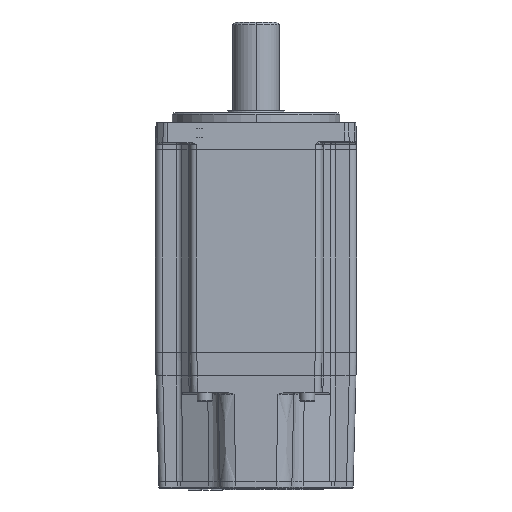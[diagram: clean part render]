
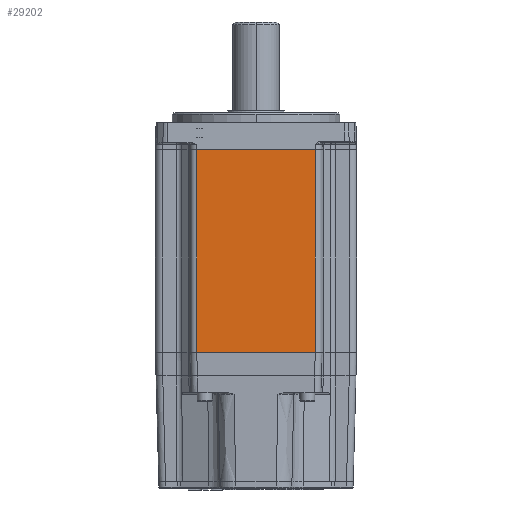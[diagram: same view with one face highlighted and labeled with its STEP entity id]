
A CAD part, front view. The second image highlights one B-rep face of the part: STEP entity #29202.
In plain terms, the highlighted planar face has unit normal (0, -1, 0).
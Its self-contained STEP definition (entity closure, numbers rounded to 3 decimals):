
#509 = ORIENTED_EDGE ( 'NONE', *, *, #7440, .F. ) ;
#1269 = CARTESIAN_POINT ( 'NONE',  ( -17.65, -30., 34.347 ) ) ;
#2292 = FACE_OUTER_BOUND ( 'NONE', #13332, .T. ) ;
#2809 = VERTEX_POINT ( 'NONE', #4286 ) ;
#4286 = CARTESIAN_POINT ( 'NONE',  ( -17.65, -30., -26.153 ) ) ;
#5213 = LINE ( 'NONE', #1269, #8649 ) ;
#5585 = CARTESIAN_POINT ( 'NONE',  ( 17.65, -30., 34.347 ) ) ;
#6359 = DIRECTION ( 'NONE',  ( 1., 0., 0. ) ) ;
#7440 = EDGE_CURVE ( 'NONE', #41697, #49699, #19990, .T. ) ;
#7848 = EDGE_CURVE ( 'NONE', #2809, #44063, #18526, .T. ) ;
#8649 = VECTOR ( 'NONE', #44534, 1000. ) ;
#11088 = PLANE ( 'NONE',  #45496 ) ;
#11124 = CARTESIAN_POINT ( 'NONE',  ( -17.65, -30., 34.347 ) ) ;
#11711 = ORIENTED_EDGE ( 'NONE', *, *, #11815, .T. ) ;
#11815 = EDGE_CURVE ( 'NONE', #41697, #2809, #5213, .T. ) ;
#13193 = VECTOR ( 'NONE', #38014, 1000. ) ;
#13332 = EDGE_LOOP ( 'NONE', ( #51958, #46945, #509, #11711 ) ) ;
#15361 = EDGE_CURVE ( 'NONE', #44063, #49699, #28588, .T. ) ;
#18526 = LINE ( 'NONE', #49070, #41502 ) ;
#18662 = DIRECTION ( 'NONE',  ( 0., 0., 1. ) ) ;
#19990 = LINE ( 'NONE', #37650, #13193 ) ;
#21145 = VECTOR ( 'NONE', #18662, 1000. ) ;
#24148 = CARTESIAN_POINT ( 'NONE',  ( 0., -30., 34.347 ) ) ;
#24330 = DIRECTION ( 'NONE',  ( 0., 0., 1. ) ) ;
#28588 = LINE ( 'NONE', #5585, #21145 ) ;
#29202 = ADVANCED_FACE ( 'NONE', ( #2292 ), #11088, .F. ) ;
#37650 = CARTESIAN_POINT ( 'NONE',  ( 0., -30., 34.347 ) ) ;
#38014 = DIRECTION ( 'NONE',  ( 1., 0., 0. ) ) ;
#38159 = CARTESIAN_POINT ( 'NONE',  ( 17.65, -30., -26.153 ) ) ;
#41502 = VECTOR ( 'NONE', #6359, 1000. ) ;
#41697 = VERTEX_POINT ( 'NONE', #11124 ) ;
#43932 = CARTESIAN_POINT ( 'NONE',  ( 17.65, -30., 34.347 ) ) ;
#44063 = VERTEX_POINT ( 'NONE', #38159 ) ;
#44534 = DIRECTION ( 'NONE',  ( 0., 0., -1. ) ) ;
#45496 = AXIS2_PLACEMENT_3D ( 'NONE', #24148, #53748, #24330 ) ;
#46945 = ORIENTED_EDGE ( 'NONE', *, *, #15361, .T. ) ;
#49070 = CARTESIAN_POINT ( 'NONE',  ( 0., -30., -26.153 ) ) ;
#49699 = VERTEX_POINT ( 'NONE', #43932 ) ;
#51958 = ORIENTED_EDGE ( 'NONE', *, *, #7848, .T. ) ;
#53748 = DIRECTION ( 'NONE',  ( 0., 1., 0. ) ) ;
